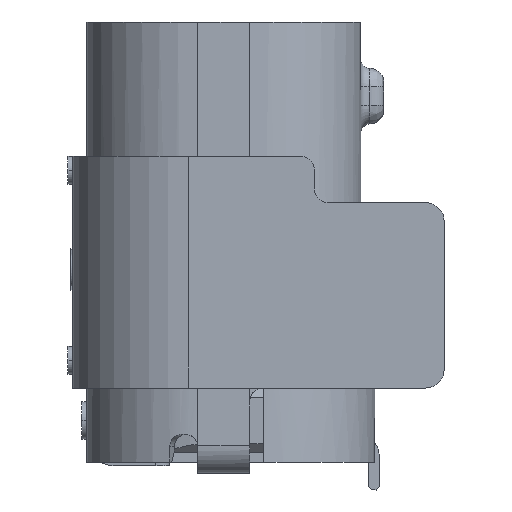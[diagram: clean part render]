
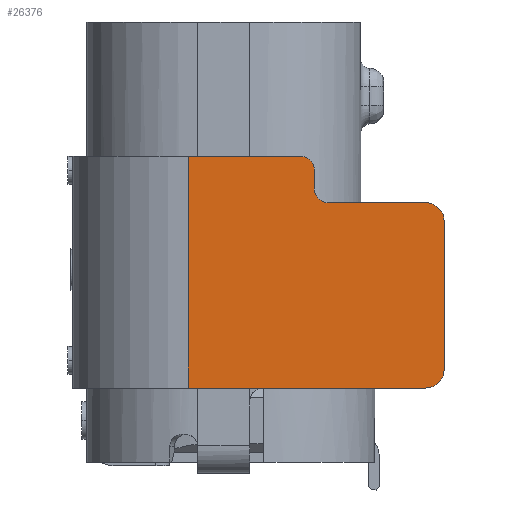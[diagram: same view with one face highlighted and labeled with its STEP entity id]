
A CAD part, left-side view. The second image highlights one B-rep face of the part: STEP entity #26376.
In plain terms, the highlighted planar face has unit normal (-1, 0, 0).
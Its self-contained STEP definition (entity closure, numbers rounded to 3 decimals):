
#188 = ORIENTED_EDGE ( 'NONE', *, *, #34726, .F. ) ;
#276 = EDGE_CURVE ( 'NONE', #18283, #16630, #33637, .T. ) ;
#629 = EDGE_CURVE ( 'NONE', #21346, #13247, #21010, .T. ) ;
#667 = DIRECTION ( 'NONE',  ( 0., 0., 1. ) ) ;
#766 = CARTESIAN_POINT ( 'NONE',  ( -1.47, 2.11, -0.98 ) ) ;
#865 = LINE ( 'NONE', #15377, #18580 ) ;
#1062 = DIRECTION ( 'NONE',  ( 0., 0., -1. ) ) ;
#1288 = DIRECTION ( 'NONE',  ( 1., 0., 0. ) ) ;
#1696 = VECTOR ( 'NONE', #22601, 1000. ) ;
#1953 = VERTEX_POINT ( 'NONE', #12131 ) ;
#1958 = EDGE_CURVE ( 'NONE', #27350, #1953, #23762, .T. ) ;
#2157 = VECTOR ( 'NONE', #12426, 1000. ) ;
#2559 = CARTESIAN_POINT ( 'NONE',  ( -1.47, 1.3, -3.48 ) ) ;
#2591 = CARTESIAN_POINT ( 'NONE',  ( -1.47, 2.11, -0.98 ) ) ;
#2726 = DIRECTION ( 'NONE',  ( -1., 0., 0. ) ) ;
#3087 = CARTESIAN_POINT ( 'NONE',  ( -1.47, 0.6, -1.48 ) ) ;
#3332 = ORIENTED_EDGE ( 'NONE', *, *, #20018, .F. ) ;
#3366 = VECTOR ( 'NONE', #35622, 1000. ) ;
#5128 = VERTEX_POINT ( 'NONE', #28088 ) ;
#5755 = AXIS2_PLACEMENT_3D ( 'NONE', #7224, #1288, #19029 ) ;
#6144 = LINE ( 'NONE', #9187, #21147 ) ;
#6443 = AXIS2_PLACEMENT_3D ( 'NONE', #17908, #32830, #35302 ) ;
#6985 = AXIS2_PLACEMENT_3D ( 'NONE', #28618, #14314, #12032 ) ;
#7224 = CARTESIAN_POINT ( 'NONE',  ( -1.47, -0.45, -1.68 ) ) ;
#8068 = DIRECTION ( 'NONE',  ( 0., 1., 0. ) ) ;
#8232 = ORIENTED_EDGE ( 'NONE', *, *, #1958, .F. ) ;
#8450 = ORIENTED_EDGE ( 'NONE', *, *, #32014, .T. ) ;
#8764 = AXIS2_PLACEMENT_3D ( 'NONE', #16667, #2726, #8068 ) ;
#9187 = CARTESIAN_POINT ( 'NONE',  ( -1.47, 1.3, -3.48 ) ) ;
#9364 = CIRCLE ( 'NONE', #8764, 0.15 ) ;
#9643 = CARTESIAN_POINT ( 'NONE',  ( -1.47, 0.75, -1.13 ) ) ;
#9826 = EDGE_LOOP ( 'NONE', ( #188, #34060, #8450, #23882, #20668, #20646, #8232, #25501, #20433, #10720, #18007, #3332 ) ) ;
#10093 = CARTESIAN_POINT ( 'NONE',  ( -1.47, 1.13, -3.48 ) ) ;
#10720 = ORIENTED_EDGE ( 'NONE', *, *, #18192, .F. ) ;
#11023 = CARTESIAN_POINT ( 'NONE',  ( -1.47, -0.45, -1.48 ) ) ;
#11753 = LINE ( 'NONE', #29138, #25915 ) ;
#12032 = DIRECTION ( 'NONE',  ( 0., 1., 0. ) ) ;
#12131 = CARTESIAN_POINT ( 'NONE',  ( -1.47, 0.75, -1.33 ) ) ;
#12274 = VERTEX_POINT ( 'NONE', #35443 ) ;
#12426 = DIRECTION ( 'NONE',  ( 0., -1., 0. ) ) ;
#13247 = VERTEX_POINT ( 'NONE', #36221 ) ;
#13499 = CARTESIAN_POINT ( 'NONE',  ( -1.47, 2.11, -3.48 ) ) ;
#14314 = DIRECTION ( 'NONE',  ( 1., 0., 0. ) ) ;
#14812 = EDGE_CURVE ( 'NONE', #25365, #36442, #6144, .T. ) ;
#15208 = DIRECTION ( 'NONE',  ( 0., 0., 1. ) ) ;
#15377 = CARTESIAN_POINT ( 'NONE',  ( -1.47, 2.11, -3.48 ) ) ;
#16199 = DIRECTION ( 'NONE',  ( 0., 1., 0. ) ) ;
#16614 = VERTEX_POINT ( 'NONE', #34880 ) ;
#16630 = VERTEX_POINT ( 'NONE', #11023 ) ;
#16667 = CARTESIAN_POINT ( 'NONE',  ( -1.47, 0.6, -1.33 ) ) ;
#16766 = CARTESIAN_POINT ( 'NONE',  ( -1.47, -0.65, -1.68 ) ) ;
#17297 = EDGE_CURVE ( 'NONE', #1953, #18283, #9364, .T. ) ;
#17908 = CARTESIAN_POINT ( 'NONE',  ( -1.47, 0.9, -1.13 ) ) ;
#17969 = EDGE_CURVE ( 'NONE', #16630, #28825, #21621, .T. ) ;
#17981 = DIRECTION ( 'NONE',  ( 0., 1., 0. ) ) ;
#18007 = ORIENTED_EDGE ( 'NONE', *, *, #14812, .F. ) ;
#18192 = EDGE_CURVE ( 'NONE', #36442, #21346, #865, .T. ) ;
#18283 = VERTEX_POINT ( 'NONE', #3087 ) ;
#18580 = VECTOR ( 'NONE', #667, 1000. ) ;
#18632 = CIRCLE ( 'NONE', #36322, 0.2 ) ;
#19029 = DIRECTION ( 'NONE',  ( 0., 0., 1. ) ) ;
#19646 = CARTESIAN_POINT ( 'NONE',  ( -1.47, 0.75, -1.13 ) ) ;
#20018 = EDGE_CURVE ( 'NONE', #16614, #25365, #30331, .T. ) ;
#20120 = LINE ( 'NONE', #33903, #1696 ) ;
#20269 = DIRECTION ( 'NONE',  ( 1., 0., 0. ) ) ;
#20433 = ORIENTED_EDGE ( 'NONE', *, *, #629, .F. ) ;
#20646 = ORIENTED_EDGE ( 'NONE', *, *, #17297, .F. ) ;
#20668 = ORIENTED_EDGE ( 'NONE', *, *, #276, .F. ) ;
#21010 = LINE ( 'NONE', #766, #2157 ) ;
#21147 = VECTOR ( 'NONE', #17981, 1000. ) ;
#21346 = VERTEX_POINT ( 'NONE', #2591 ) ;
#21621 = CIRCLE ( 'NONE', #5755, 0.2 ) ;
#22283 = CIRCLE ( 'NONE', #6443, 0.15 ) ;
#22601 = DIRECTION ( 'NONE',  ( 0., 1., 0. ) ) ;
#22973 = DIRECTION ( 'NONE',  ( 0., -1., 0. ) ) ;
#23762 = LINE ( 'NONE', #9643, #32095 ) ;
#23882 = ORIENTED_EDGE ( 'NONE', *, *, #17969, .F. ) ;
#25365 = VERTEX_POINT ( 'NONE', #2559 ) ;
#25501 = ORIENTED_EDGE ( 'NONE', *, *, #31733, .F. ) ;
#25915 = VECTOR ( 'NONE', #15208, 1000. ) ;
#26376 = ADVANCED_FACE ( 'NONE', ( #32254 ), #26504, .F. ) ;
#26504 = PLANE ( 'NONE',  #6985 ) ;
#27350 = VERTEX_POINT ( 'NONE', #19646 ) ;
#28088 = CARTESIAN_POINT ( 'NONE',  ( -1.47, -0.65, -3.28 ) ) ;
#28618 = CARTESIAN_POINT ( 'NONE',  ( -1.47, 0.73, -2.23 ) ) ;
#28825 = VERTEX_POINT ( 'NONE', #16766 ) ;
#29078 = EDGE_CURVE ( 'NONE', #5128, #12274, #18632, .T. ) ;
#29138 = CARTESIAN_POINT ( 'NONE',  ( -1.47, -0.65, -3.28 ) ) ;
#30331 = LINE ( 'NONE', #10093, #36295 ) ;
#31733 = EDGE_CURVE ( 'NONE', #13247, #27350, #22283, .T. ) ;
#32014 = EDGE_CURVE ( 'NONE', #5128, #28825, #11753, .T. ) ;
#32095 = VECTOR ( 'NONE', #1062, 1000. ) ;
#32254 = FACE_OUTER_BOUND ( 'NONE', #9826, .T. ) ;
#32830 = DIRECTION ( 'NONE',  ( 1., 0., 0. ) ) ;
#33637 = LINE ( 'NONE', #35425, #3366 ) ;
#33903 = CARTESIAN_POINT ( 'NONE',  ( -1.47, -0.45, -3.48 ) ) ;
#34060 = ORIENTED_EDGE ( 'NONE', *, *, #29078, .F. ) ;
#34726 = EDGE_CURVE ( 'NONE', #12274, #16614, #20120, .T. ) ;
#34880 = CARTESIAN_POINT ( 'NONE',  ( -1.47, 1.13, -3.48 ) ) ;
#35302 = DIRECTION ( 'NONE',  ( 0., 0., 1. ) ) ;
#35425 = CARTESIAN_POINT ( 'NONE',  ( -1.47, 0.6, -1.48 ) ) ;
#35443 = CARTESIAN_POINT ( 'NONE',  ( -1.47, -0.45, -3.48 ) ) ;
#35622 = DIRECTION ( 'NONE',  ( 0., -1., 0. ) ) ;
#36221 = CARTESIAN_POINT ( 'NONE',  ( -1.47, 0.9, -0.98 ) ) ;
#36295 = VECTOR ( 'NONE', #16199, 1000. ) ;
#36322 = AXIS2_PLACEMENT_3D ( 'NONE', #37110, #20269, #22973 ) ;
#36442 = VERTEX_POINT ( 'NONE', #13499 ) ;
#37110 = CARTESIAN_POINT ( 'NONE',  ( -1.47, -0.45, -3.28 ) ) ;
